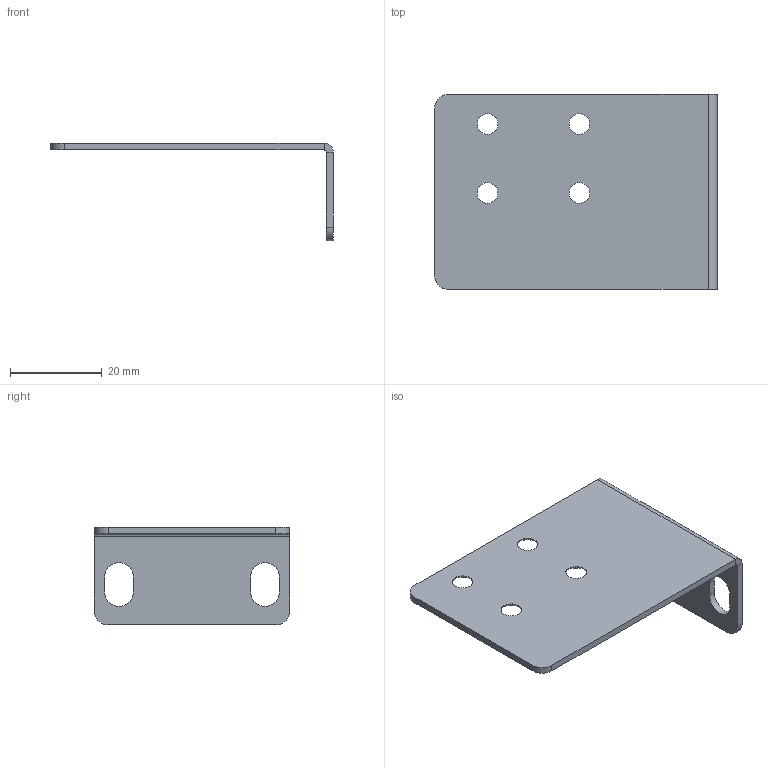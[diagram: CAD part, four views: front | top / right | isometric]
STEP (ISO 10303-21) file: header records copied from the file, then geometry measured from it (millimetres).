
FILE_DESCRIPTION((''),'2;1');
FILE_NAME('123400001972A_RACK-MOUNT-L','2019-06-19T',('george_hsu'),(''),'PRO/ENGINEER BY PARAMETRIC TECHNOLOGY CORPORATION, 2012480','PRO/ENGINEER BY PARAMETRIC TECHNOLOGY CORPORATION, 2012480','');
FILE_SCHEMA(('AUTOMOTIVE_DESIGN { 1 0 10303 214 1 1 1 1 }'));
Length unit declared in the file: millimetre
Products named in the file (1): 123400001972A_RACK-MOUNT-L
Bounding box: 61.5 x 42.45 x 21.3 mm (x, y, z)
Volume: 4812 mm3; surface area: 6997 mm2
Topology: 1 solids, 1 shells, 42 faces, 104 edges, 64 vertices
Faces by surface type: cylinder 18, plane 16, cone 8
Entity records: 1853 total; most frequent: DIRECTION 232, CARTESIAN_POINT 212, ORIENTED_EDGE 208, PRESENTATION_STYLE_ASSIGNMENT 105, STYLED_ITEM 105, CURVE_STYLE 104, EDGE_CURVE 104, AXIS2_PLACEMENT_3D 86
